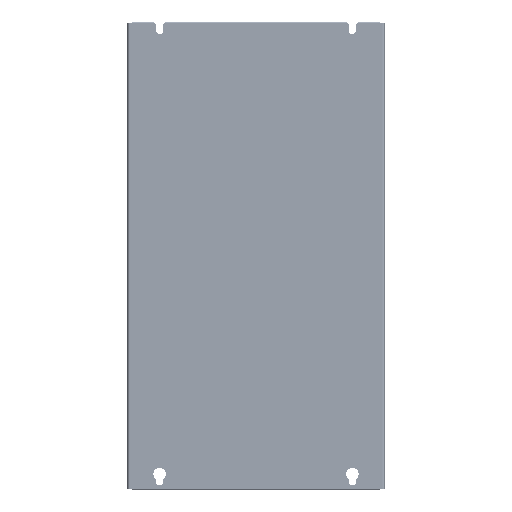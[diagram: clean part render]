
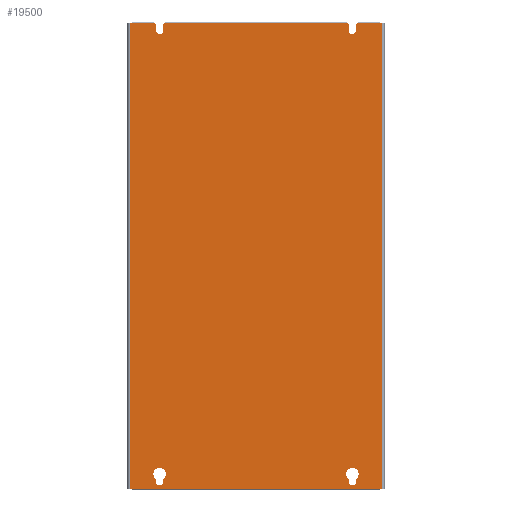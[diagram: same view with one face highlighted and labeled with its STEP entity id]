
A CAD part, left-side view. The second image highlights one B-rep face of the part: STEP entity #19500.
In plain terms, the highlighted planar face has unit normal (-1, 0, 0).
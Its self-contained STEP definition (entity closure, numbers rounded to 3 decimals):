
#22=DIRECTION('',(0.,0.,1.));
#23=VECTOR('',#22,3.);
#24=CARTESIAN_POINT('',(-100.,119.5,-484.88));
#25=LINE('',#24,#23);
#30=CARTESIAN_POINT('',(-100.,115.,-484.88));
#31=DIRECTION('',(-1.,0.,0.));
#32=DIRECTION('',(0.,1.,0.));
#33=AXIS2_PLACEMENT_3D('',#30,#31,#32);
#38=DIRECTION('',(0.,0.,-1.));
#39=VECTOR('',#38,3.);
#40=CARTESIAN_POINT('',(-100.,110.5,-481.88));
#41=LINE('',#40,#39);
#45=CARTESIAN_POINT('',(-100.,115.,-475.88));
#46=DIRECTION('',(-1.,0.,0.));
#47=DIRECTION('',(0.,-0.6,-0.8));
#48=AXIS2_PLACEMENT_3D('',#45,#46,#47);
#53=CARTESIAN_POINT('',(-100.,-115.,-484.88));
#54=DIRECTION('',(-1.,0.,0.));
#55=DIRECTION('',(0.,1.,0.));
#56=AXIS2_PLACEMENT_3D('',#53,#54,#55);
#61=DIRECTION('',(0.,0.,-1.));
#62=VECTOR('',#61,3.);
#63=CARTESIAN_POINT('',(-100.,-119.5,-481.88));
#64=LINE('',#63,#62);
#68=CARTESIAN_POINT('',(-100.,-115.,-475.88));
#69=DIRECTION('',(-1.,0.,0.));
#70=DIRECTION('',(0.,-0.6,-0.8));
#71=AXIS2_PLACEMENT_3D('',#68,#69,#70);
#76=DIRECTION('',(0.,0.,1.));
#77=VECTOR('',#76,3.);
#78=CARTESIAN_POINT('',(-100.,-110.5,-484.88));
#79=LINE('',#78,#77);
#83=DIRECTION('',(0.,-0.707,-0.707));
#84=VECTOR('',#83,2.121);
#85=CARTESIAN_POINT('',(-100.,121.,62.12));
#86=LINE('',#85,#84);
#90=DIRECTION('',(0.,0.,-1.));
#91=VECTOR('',#90,7.);
#92=CARTESIAN_POINT('',(-100.,119.5,60.62));
#93=LINE('',#92,#91);
#97=CARTESIAN_POINT('',(-100.,115.,53.62));
#98=DIRECTION('',(-1.,0.,0.));
#99=DIRECTION('',(0.,1.,0.));
#100=AXIS2_PLACEMENT_3D('',#97,#98,#99);
#105=DIRECTION('',(0.,0.,-1.));
#106=VECTOR('',#105,7.);
#107=CARTESIAN_POINT('',(-100.,110.5,60.62));
#108=LINE('',#107,#106);
#112=DIRECTION('',(0.,0.707,-0.707));
#113=VECTOR('',#112,2.121);
#114=CARTESIAN_POINT('',(-100.,109.,62.12));
#115=LINE('',#114,#113);
#119=DIRECTION('',(0.,-0.707,-0.707));
#120=VECTOR('',#119,2.121);
#121=CARTESIAN_POINT('',(-100.,-109.,62.12));
#122=LINE('',#121,#120);
#126=DIRECTION('',(0.,0.,-1.));
#127=VECTOR('',#126,7.);
#128=CARTESIAN_POINT('',(-100.,-110.5,60.62));
#129=LINE('',#128,#127);
#133=CARTESIAN_POINT('',(-100.,-115.,53.62));
#134=DIRECTION('',(-1.,0.,0.));
#135=DIRECTION('',(0.,1.,0.));
#136=AXIS2_PLACEMENT_3D('',#133,#134,#135);
#141=DIRECTION('',(0.,0.,-1.));
#142=VECTOR('',#141,7.);
#143=CARTESIAN_POINT('',(-100.,-119.5,60.62));
#144=LINE('',#143,#142);
#148=DIRECTION('',(0.,0.707,-0.707));
#149=VECTOR('',#148,2.121);
#150=CARTESIAN_POINT('',(-100.,-121.,62.12));
#151=LINE('',#150,#149);
#155=DIRECTION('',(0.,-1.,0.));
#156=VECTOR('',#155,3.);
#157=CARTESIAN_POINT('',(-100.,-147.8,62.12));
#158=LINE('',#157,#156);
#162=DIRECTION('',(0.,1.,0.));
#163=VECTOR('',#162,3.);
#164=CARTESIAN_POINT('',(-100.,-150.8,-493.38));
#165=LINE('',#164,#163);
#169=DIRECTION('',(0.,1.,0.));
#170=VECTOR('',#169,3.);
#171=CARTESIAN_POINT('',(-100.,147.8,-493.38));
#172=LINE('',#171,#170);
#176=DIRECTION('',(0.,-1.,0.));
#177=VECTOR('',#176,3.);
#178=CARTESIAN_POINT('',(-100.,150.8,62.12));
#179=LINE('',#178,#177);
#432=DIRECTION('',(0.,1.,0.));
#433=VECTOR('',#432,26.8);
#434=CARTESIAN_POINT('',(-100.,-147.8,62.12));
#435=LINE('',#434,#433);
#450=DIRECTION('',(0.,1.,0.));
#451=VECTOR('',#450,26.8);
#452=CARTESIAN_POINT('',(-100.,121.,62.12));
#453=LINE('',#452,#451);
#487=DIRECTION('',(0.,1.,0.));
#488=VECTOR('',#487,218.);
#489=CARTESIAN_POINT('',(-100.,-109.,62.12));
#490=LINE('',#489,#488);
#912=DIRECTION('',(0.,0.,-1.));
#913=VECTOR('',#912,555.5);
#914=CARTESIAN_POINT('',(-100.,-150.8,62.12));
#915=LINE('',#914,#913);
#6980=DIRECTION('',(0.,0.,1.));
#6981=VECTOR('',#6980,555.5);
#6982=CARTESIAN_POINT('',(-100.,150.8,-493.38));
#6983=LINE('',#6982,#6981);
#14681=DIRECTION('',(0.,-1.,0.));
#14682=VECTOR('',#14681,295.6);
#14683=CARTESIAN_POINT('',(-100.,147.8,-493.38));
#14684=LINE('',#14683,#14682);
#16501=CARTESIAN_POINT('',(-100.,-150.8,-493.38));
#16502=VERTEX_POINT('',#16501);
#16503=CARTESIAN_POINT('',(-100.,-150.8,62.12));
#16504=VERTEX_POINT('',#16503);
#16517=CARTESIAN_POINT('',(-100.,150.8,62.12));
#16518=VERTEX_POINT('',#16517);
#16519=CARTESIAN_POINT('',(-100.,150.8,-493.38));
#16520=VERTEX_POINT('',#16519);
#17849=CARTESIAN_POINT('',(-100.,147.8,-493.38));
#17850=CARTESIAN_POINT('',(-100.,-147.8,-493.38));
#17851=VERTEX_POINT('',#17849);
#17852=VERTEX_POINT('',#17850);
#19277=CARTESIAN_POINT('',(-100.,-147.8,62.12));
#19278=VERTEX_POINT('',#19277);
#19279=CARTESIAN_POINT('',(-100.,147.8,62.12));
#19280=VERTEX_POINT('',#19279);
#19281=CARTESIAN_POINT('',(-100.,119.5,-484.88));
#19282=CARTESIAN_POINT('',(-100.,119.5,-481.88));
#19283=VERTEX_POINT('',#19281);
#19284=VERTEX_POINT('',#19282);
#19285=CARTESIAN_POINT('',(-100.,110.5,-481.88));
#19286=VERTEX_POINT('',#19285);
#19287=CARTESIAN_POINT('',(-100.,110.5,-484.88));
#19288=VERTEX_POINT('',#19287);
#19289=CARTESIAN_POINT('',(-100.,-110.5,-484.88));
#19290=CARTESIAN_POINT('',(-100.,-119.5,-484.88));
#19291=VERTEX_POINT('',#19289);
#19292=VERTEX_POINT('',#19290);
#19293=CARTESIAN_POINT('',(-100.,-110.5,-481.88));
#19294=VERTEX_POINT('',#19293);
#19295=CARTESIAN_POINT('',(-100.,-119.5,-481.88));
#19296=VERTEX_POINT('',#19295);
#19297=CARTESIAN_POINT('',(-100.,119.5,53.62));
#19298=CARTESIAN_POINT('',(-100.,110.5,53.62));
#19299=VERTEX_POINT('',#19297);
#19300=VERTEX_POINT('',#19298);
#19301=CARTESIAN_POINT('',(-100.,-110.5,53.62));
#19302=CARTESIAN_POINT('',(-100.,-119.5,53.62));
#19303=VERTEX_POINT('',#19301);
#19304=VERTEX_POINT('',#19302);
#19377=CARTESIAN_POINT('',(-100.,-121.,62.12));
#19378=CARTESIAN_POINT('',(-100.,-119.5,60.62));
#19379=VERTEX_POINT('',#19377);
#19380=VERTEX_POINT('',#19378);
#19381=CARTESIAN_POINT('',(-100.,-109.,62.12));
#19382=CARTESIAN_POINT('',(-100.,-110.5,60.62));
#19383=VERTEX_POINT('',#19381);
#19384=VERTEX_POINT('',#19382);
#19405=CARTESIAN_POINT('',(-100.,121.,62.12));
#19406=CARTESIAN_POINT('',(-100.,119.5,60.62));
#19407=VERTEX_POINT('',#19405);
#19408=VERTEX_POINT('',#19406);
#19409=CARTESIAN_POINT('',(-100.,109.,62.12));
#19410=CARTESIAN_POINT('',(-100.,110.5,60.62));
#19411=VERTEX_POINT('',#19409);
#19412=VERTEX_POINT('',#19410);
#19433=CARTESIAN_POINT('',(-100.,0.,0.));
#19434=DIRECTION('',(1.,0.,0.));
#19435=DIRECTION('',(0.,1.,0.));
#19436=AXIS2_PLACEMENT_3D('',#19433,#19434,#19435);
#19437=PLANE('',#19436);
#19439=ORIENTED_EDGE('',*,*,#19438,.T.);
#19441=ORIENTED_EDGE('',*,*,#19440,.T.);
#19443=ORIENTED_EDGE('',*,*,#19442,.T.);
#19445=ORIENTED_EDGE('',*,*,#19444,.F.);
#19447=ORIENTED_EDGE('',*,*,#19446,.F.);
#19449=ORIENTED_EDGE('',*,*,#19448,.F.);
#19451=ORIENTED_EDGE('',*,*,#19450,.T.);
#19453=ORIENTED_EDGE('',*,*,#19452,.T.);
#19455=ORIENTED_EDGE('',*,*,#19454,.T.);
#19457=ORIENTED_EDGE('',*,*,#19456,.F.);
#19459=ORIENTED_EDGE('',*,*,#19458,.F.);
#19461=ORIENTED_EDGE('',*,*,#19460,.F.);
#19463=ORIENTED_EDGE('',*,*,#19462,.T.);
#19465=ORIENTED_EDGE('',*,*,#19464,.T.);
#19467=ORIENTED_EDGE('',*,*,#19466,.T.);
#19469=ORIENTED_EDGE('',*,*,#19468,.F.);
#19471=ORIENTED_EDGE('',*,*,#19470,.T.);
#19473=ORIENTED_EDGE('',*,*,#19472,.T.);
#19475=ORIENTED_EDGE('',*,*,#19474,.T.);
#19477=ORIENTED_EDGE('',*,*,#19476,.F.);
#19478=EDGE_LOOP('',(#19439,#19441,#19443,#19445,#19447,#19449,#19451,#19453,
#19455,#19457,#19459,#19461,#19463,#19465,#19467,#19469,#19471,#19473,#19475,
#19477));
#19479=FACE_OUTER_BOUND('',#19478,.F.);
#19481=ORIENTED_EDGE('',*,*,#19480,.T.);
#19483=ORIENTED_EDGE('',*,*,#19482,.F.);
#19485=ORIENTED_EDGE('',*,*,#19484,.T.);
#19487=ORIENTED_EDGE('',*,*,#19486,.F.);
#19488=EDGE_LOOP('',(#19481,#19483,#19485,#19487));
#19489=FACE_BOUND('',#19488,.F.);
#19491=ORIENTED_EDGE('',*,*,#19490,.F.);
#19493=ORIENTED_EDGE('',*,*,#19492,.T.);
#19495=ORIENTED_EDGE('',*,*,#19494,.F.);
#19497=ORIENTED_EDGE('',*,*,#19496,.T.);
#19498=EDGE_LOOP('',(#19491,#19493,#19495,#19497));
#19499=FACE_BOUND('',#19498,.F.);
#19500=ADVANCED_FACE('',(#19479,#19489,#19499),#19437,.F.);
#34=CIRCLE('',#33,4.5);
#49=CIRCLE('',#48,7.5);
#57=CIRCLE('',#56,4.5);
#72=CIRCLE('',#71,7.5);
#101=CIRCLE('',#100,4.5);
#137=CIRCLE('',#136,4.5);
#19438=EDGE_CURVE('',#19407,#19408,#86,.T.);
#19440=EDGE_CURVE('',#19408,#19299,#93,.T.);
#19442=EDGE_CURVE('',#19299,#19300,#101,.T.);
#19444=EDGE_CURVE('',#19412,#19300,#108,.T.);
#19446=EDGE_CURVE('',#19411,#19412,#115,.T.);
#19448=EDGE_CURVE('',#19383,#19411,#490,.T.);
#19450=EDGE_CURVE('',#19383,#19384,#122,.T.);
#19452=EDGE_CURVE('',#19384,#19303,#129,.T.);
#19454=EDGE_CURVE('',#19303,#19304,#137,.T.);
#19456=EDGE_CURVE('',#19380,#19304,#144,.T.);
#19458=EDGE_CURVE('',#19379,#19380,#151,.T.);
#19460=EDGE_CURVE('',#19278,#19379,#435,.T.);
#19462=EDGE_CURVE('',#19278,#16504,#158,.T.);
#19464=EDGE_CURVE('',#16504,#16502,#915,.T.);
#19466=EDGE_CURVE('',#16502,#17852,#165,.T.);
#19468=EDGE_CURVE('',#17851,#17852,#14684,.T.);
#19470=EDGE_CURVE('',#17851,#16520,#172,.T.);
#19472=EDGE_CURVE('',#16520,#16518,#6983,.T.);
#19474=EDGE_CURVE('',#16518,#19280,#179,.T.);
#19476=EDGE_CURVE('',#19407,#19280,#453,.T.);
#19480=EDGE_CURVE('',#19291,#19292,#57,.T.);
#19482=EDGE_CURVE('',#19296,#19292,#64,.T.);
#19484=EDGE_CURVE('',#19296,#19294,#72,.T.);
#19486=EDGE_CURVE('',#19291,#19294,#79,.T.);
#19490=EDGE_CURVE('',#19283,#19284,#25,.T.);
#19492=EDGE_CURVE('',#19283,#19288,#34,.T.);
#19494=EDGE_CURVE('',#19286,#19288,#41,.T.);
#19496=EDGE_CURVE('',#19286,#19284,#49,.T.);
